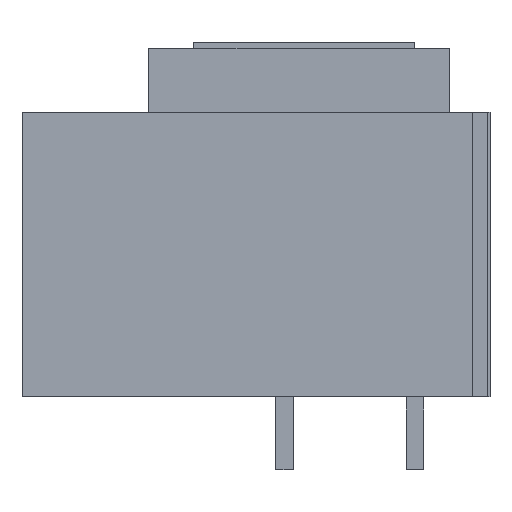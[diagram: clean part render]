
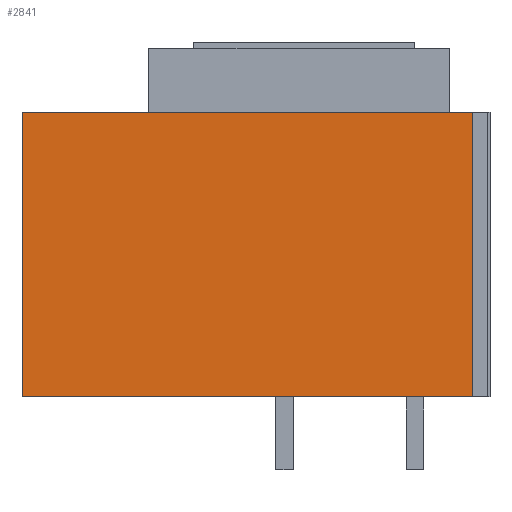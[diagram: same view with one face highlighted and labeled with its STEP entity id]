
A CAD part, left-side view. The second image highlights one B-rep face of the part: STEP entity #2841.
In plain terms, the highlighted planar face has unit normal (-1, 0, 0).
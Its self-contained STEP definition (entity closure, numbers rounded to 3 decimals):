
#851 = EDGE_CURVE ( 'NONE', #27330, #34273, #19905, .T. ) ;
#957 = LINE ( 'NONE', #34800, #26852 ) ;
#2503 = CARTESIAN_POINT ( 'NONE',  ( -159., 15., -244.5 ) ) ;
#2686 = VECTOR ( 'NONE', #19057, 1000. ) ;
#2841 = ADVANCED_FACE ( 'NONE', ( #30809 ), #33472, .T. ) ;
#3251 = ORIENTED_EDGE ( 'NONE', *, *, #34761, .F. ) ;
#6901 = EDGE_CURVE ( 'NONE', #34273, #11991, #957, .T. ) ;
#8620 = CARTESIAN_POINT ( 'NONE',  ( -159., 402., -244.5 ) ) ;
#10663 = CARTESIAN_POINT ( 'NONE',  ( -159., 15., 0. ) ) ;
#11387 = AXIS2_PLACEMENT_3D ( 'NONE', #36940, #12353, #15149 ) ;
#11991 = VERTEX_POINT ( 'NONE', #10663 ) ;
#12078 = DIRECTION ( 'NONE',  ( 0., -1., 0. ) ) ;
#12353 = DIRECTION ( 'NONE',  ( -1., 0., 0. ) ) ;
#12982 = VECTOR ( 'NONE', #12078, 1000. ) ;
#13023 = CARTESIAN_POINT ( 'NONE',  ( -159., 402., 0. ) ) ;
#15149 = DIRECTION ( 'NONE',  ( 0., -1., 0. ) ) ;
#15989 = CARTESIAN_POINT ( 'NONE',  ( -159., 0., -244.5 ) ) ;
#17850 = DIRECTION ( 'NONE',  ( 0., 0., 1. ) ) ;
#18739 = LINE ( 'NONE', #20898, #12982 ) ;
#18805 = CARTESIAN_POINT ( 'NONE',  ( -159., 402., -244.5 ) ) ;
#19057 = DIRECTION ( 'NONE',  ( 0., -1., 0. ) ) ;
#19905 = LINE ( 'NONE', #15989, #2686 ) ;
#20898 = CARTESIAN_POINT ( 'NONE',  ( -159., 0., 0. ) ) ;
#23404 = ORIENTED_EDGE ( 'NONE', *, *, #851, .T. ) ;
#26852 = VECTOR ( 'NONE', #32116, 1000. ) ;
#27330 = VERTEX_POINT ( 'NONE', #18805 ) ;
#28069 = ORIENTED_EDGE ( 'NONE', *, *, #6901, .T. ) ;
#28289 = ORIENTED_EDGE ( 'NONE', *, *, #37665, .F. ) ;
#30809 = FACE_OUTER_BOUND ( 'NONE', #37581, .T. ) ;
#32116 = DIRECTION ( 'NONE',  ( 0., 0., 1. ) ) ;
#33472 = PLANE ( 'NONE',  #11387 ) ;
#34178 = LINE ( 'NONE', #8620, #39420 ) ;
#34273 = VERTEX_POINT ( 'NONE', #2503 ) ;
#34449 = VERTEX_POINT ( 'NONE', #13023 ) ;
#34761 = EDGE_CURVE ( 'NONE', #27330, #34449, #34178, .T. ) ;
#34800 = CARTESIAN_POINT ( 'NONE',  ( -159., 15., -244.5 ) ) ;
#36940 = CARTESIAN_POINT ( 'NONE',  ( -159., 0., -244.5 ) ) ;
#37581 = EDGE_LOOP ( 'NONE', ( #28289, #3251, #23404, #28069 ) ) ;
#37665 = EDGE_CURVE ( 'NONE', #34449, #11991, #18739, .T. ) ;
#39420 = VECTOR ( 'NONE', #17850, 1000. ) ;
